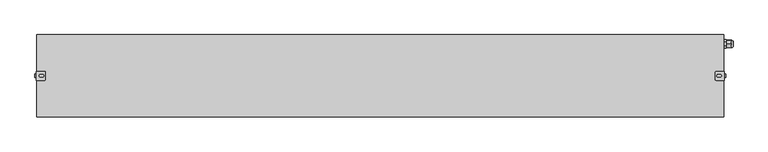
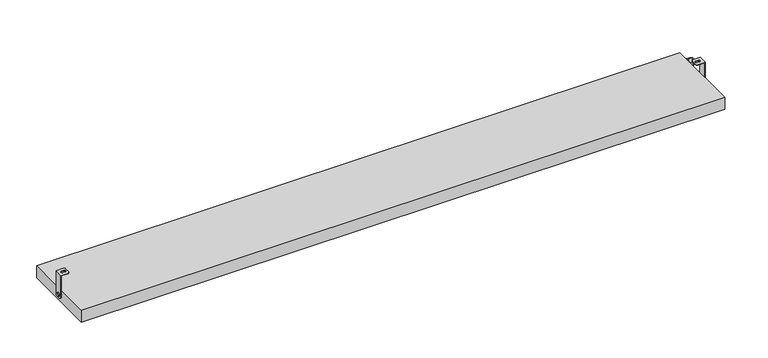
"""IFC4 building model written with IfcOpenShell, lengths in millimetres: light fixture geometry, GENILED_Светильник светодиодный_Titan Advanced : Titan Advanced 1500x180x30 120Вт IP66 Матовое закаленное стекло."""

from ifc_helpers import new_model, si_unit, point, frame, frame_2d, origin, origin_with_axes, place, context, project, spatial, polyline, circle_curve, ellipse_curve, trimmed, segment, composite_curve, outline, extrude, source, transform, mapped, element, save
from ifc_brep_helpers import plane_surface, cylinder_surface, revolved_surface, advanced_brep


def light_fixture_e242d498(model_context):
    return source(origin(), model_context, "Body", "SolidModel", [
        advanced_brep(
        [(-734.0, 10.0, 67.0), (-751.0, 10.0, 67.0), (-751.0, -10.0, 67.0), (-734.0, -10.0, 67.0), (-731.0, -7.0, 67.0), (-731.0, 7.0, 67.0), (-737.0, 2.75, 67.0), (-737.0, -2.75, 67.0), (-742.0, -2.75, 67.0), (-742.0, 2.75, 67.0), (-734.0, -10.0, 66.0), (-750.0, -10.0, 66.0), (-750.0, 10.0, 66.0), (-734.0, 10.0, 66.0), (-731.0, 7.0, 66.0), (-731.0, -7.0, 66.0), (-737.0, 2.75, 66.0), (-742.0, 2.75, 66.0), (-742.0, -2.75, 66.0), (-737.0, -2.75, 66.0), (-751.0, -10.0, 15.0), (-750.0, -10.0, 15.0), (-751.0, 10.0, 15.0), (-751.0, 2.0, 7.0), (-751.0, -2.0, 7.0), (-751.0, 4.0, 15.0), (-751.0, -4.0, 15.0), (-750.0, 10.0, 15.0), (-750.0, -2.0, 7.0), (-750.0, 2.0, 7.0), (-754.0, -4.0, 15.0), (-754.0, 4.0, 15.0)],
        [
            (0, 1),
            (1, 2),
            (2, 3),
            (3, 4, circle_curve(frame((-734.0, -7.0, 67.0), z_axis=(0.0, 0.0, 1.0), x_axis=(-1.0, 0.0, 0.0)), 3.0)),
            (4, 5),
            (5, 0, circle_curve(frame((-734.0, 7.0, 67.0), z_axis=(0.0, 0.0, 1.0), x_axis=(-1.0, 0.0, 0.0)), 3.0)),
            (6, 7, circle_curve(frame((-737.0, 0.0, 67.0), z_axis=(0.0, 0.0, -1.0), x_axis=(-1.0, 0.0, 0.0)), 2.75)),
            (7, 8),
            (8, 9, circle_curve(frame((-742.0, 0.0, 67.0), z_axis=(0.0, 0.0, -1.0), x_axis=(-1.0, 0.0, 0.0)), 2.75)),
            (9, 6),
            (10, 11),
            (11, 12),
            (12, 13),
            (13, 14, circle_curve(frame((-734.0, 7.0, 66.0), z_axis=(0.0, 0.0, -1.0), x_axis=(-1.0, 0.0, 0.0)), 3.0)),
            (14, 15),
            (15, 10, circle_curve(frame((-734.0, -7.0, 66.0), z_axis=(0.0, 0.0, -1.0), x_axis=(-1.0, 0.0, 0.0)), 3.0)),
            (16, 17),
            (17, 18, circle_curve(frame((-742.0, 0.0, 66.0), z_axis=(0.0, 0.0, 1.0), x_axis=(-1.0, 0.0, 0.0)), 2.75)),
            (18, 19),
            (19, 16, circle_curve(frame((-737.0, 0.0, 66.0), z_axis=(0.0, 0.0, 1.0), x_axis=(-1.0, 0.0, 0.0)), 2.75)),
            (5, 14),
            (13, 0),
            (4, 15),
            (3, 10),
            (2, 20),
            (20, 21),
            (21, 11),
            (1, 22),
            (22, 23, circle_curve(frame((-751.0, 2.0, 15.0), z_axis=(-1.0, 0.0, 0.0), x_axis=(0.0, 1.0, 0.0)), 8.0)),
            (23, 24),
            (24, 20, circle_curve(frame((-751.0, -2.0, 15.0), z_axis=(-1.0, 0.0, 0.0), x_axis=(0.0, 1.0, 0.0)), 8.0)),
            (25, 26, circle_curve(frame((-751.0, 0.0, 15.0), z_axis=(1.0, 0.0, 0.0), x_axis=(0.0, 1.0, 0.0)), 4.0)),
            (26, 25, circle_curve(frame((-751.0, 0.0, 15.0), z_axis=(1.0, 0.0, 0.0), x_axis=(0.0, 1.0, 0.0)), 4.0)),
            (12, 27),
            (27, 22),
            (9, 17),
            (16, 6),
            (8, 18),
            (7, 19),
            (21, 28, circle_curve(frame((-750.0, -2.0, 15.0), z_axis=(1.0, 0.0, 0.0), x_axis=(0.0, 1.0, 0.0)), 8.0)),
            (28, 29),
            (29, 27, circle_curve(frame((-750.0, 2.0, 15.0), z_axis=(1.0, 0.0, 0.0), x_axis=(0.0, 1.0, 0.0)), 8.0)),
            (24, 28),
            (23, 29),
            (30, 31, circle_curve(frame((-754.0, 0.0, 15.0), z_axis=(-1.0, 0.0, 0.0), x_axis=(0.0, 1.0, 0.0)), 4.0)),
            (31, 30, circle_curve(frame((-754.0, 0.0, 15.0), z_axis=(-1.0, 0.0, 0.0), x_axis=(0.0, 1.0, 0.0)), 4.0)),
            (31, 25),
            (26, 30),
        ],
        [
            plane_surface(frame((-737.0, 7.0, 67.0), z_axis=(0.0, 0.0, 1.0), x_axis=(0.0, 1.0, 0.0))),
            plane_surface(frame((-737.0, 7.0, 66.0), z_axis=(0.0, 0.0, -1.0), x_axis=(0.0, -1.0, 0.0))),
            cylinder_surface(frame((-734.0, 7.0, 66.0), z_axis=(0.0, 0.0, 1.0), x_axis=(-1.0, 0.0, 0.0)), 3.0),
            plane_surface(frame((-731.0, 7.0, 67.0), z_axis=(1.0, 0.0, 0.0), x_axis=(0.0, 0.0, -1.0))),
            cylinder_surface(frame((-734.0, -7.0, 66.0), z_axis=(0.0, 0.0, 1.0), x_axis=(-1.0, 0.0, 0.0)), 3.0),
            plane_surface(frame((-734.0, -10.0, 67.0), z_axis=(0.0, -1.0, 0.0), x_axis=(0.0, 0.0, -1.0))),
            plane_surface(frame((-751.0, -10.0, 67.0), z_axis=(-1.0, 0.0, 0.0), x_axis=(0.0, 0.0, -1.0))),
            plane_surface(frame((-751.0, 10.0, 67.0), z_axis=(0.0, 1.0, 0.0), x_axis=(0.0, 0.0, -1.0))),
            plane_surface(frame((-737.0, 2.75, 67.0), z_axis=(0.0, -1.0, 0.0), x_axis=(0.0, 0.0, -1.0))),
            revolved_surface(polyline([(-744.75, 0.0, 66.0), (-744.75, 0.0, 67.0)]), (-742.0, 0.0, 15.0), (0.0, 0.0, -1.0)),
            plane_surface(frame((-742.0, -2.75, 67.0), z_axis=(0.0, 1.0, 0.0), x_axis=(0.0, 0.0, -1.0))),
            revolved_surface(polyline([(-739.75, 0.0, 66.0), (-739.75, 0.0, 67.0)]), (-737.0, 0.0, 15.0), (0.0, 0.0, -1.0)),
            plane_surface(frame((-750.0, -10.0, 67.0), z_axis=(1.0, 0.0, 0.0), x_axis=(0.0, 1.0, 0.0))),
            cylinder_surface(frame((-750.0, -2.0, 15.0), z_axis=(-1.0, 0.0, 0.0), x_axis=(0.0, 1.0, 0.0)), 8.0),
            plane_surface(frame((-751.0, -2.0, 7.0), z_axis=(0.0, 0.0, -1.0), x_axis=(1.0, 0.0, 0.0))),
            cylinder_surface(frame((-750.0, 2.0, 15.0), z_axis=(-1.0, 0.0, 0.0), x_axis=(0.0, 1.0, 0.0)), 8.0),
            plane_surface(frame((-754.0, 4.0, 15.0), z_axis=(-1.0, 0.0, 0.0), x_axis=(0.0, 0.0, 1.0))),
            cylinder_surface(frame((-751.0, 0.0, 15.0), z_axis=(-1.0, 0.0, 0.0), x_axis=(0.0, 1.0, 0.0)), 4.0),
        ],
        [
            (0, [[1, 2, 3, 4, 5, 6], [7, 8, 9, 10]]),
            (1, [[11, 12, 13, 14, 15, 16], [17, 18, 19, 20]]),
            (2, [[21, -14, 22, -6]]),
            (3, [[23, -15, -21, -5]]),
            (4, [[24, -16, -23, -4]]),
            (5, [[-3, 25, 26, 27, -11, -24]]),
            (6, [[28, 29, 30, 31, -25, -2], [32, 33]]),
            (7, [[-13, 34, 35, -28, -1, -22]]),
            (8, [[36, -17, 37, -10]]),
            (9, [[38, -18, -36, -9]]),
            (10, [[39, -19, -38, -8]]),
            (11, [[-37, -20, -39, -7]]),
            (12, [[-34, -12, -27, 40, 41, 42]]),
            (13, [[43, -40, -26, -31]]),
            (14, [[44, -41, -43, -30]]),
            (15, [[-35, -42, -44, -29]]),
            (16, [[45, 46]]),
            (17, [[47, -33, 48, -46]]),
            (17, [[-48, -32, -47, -45]]),
        ],
    ),
        advanced_brep(
        [(734.0, 10.0, 67.0), (731.0, 7.0, 67.0), (731.0, -7.0, 67.0), (734.0, -10.0, 67.0), (751.0, -10.0, 67.0), (751.0, 10.0, 67.0), (737.0, 2.75, 67.0), (742.0, 2.75, 67.0), (742.0, -2.75, 67.0), (737.0, -2.75, 67.0), (734.0, -10.0, 66.0), (731.0, -7.0, 66.0), (731.0, 7.0, 66.0), (734.0, 10.0, 66.0), (750.0, 10.0, 66.0), (750.0, -10.0, 66.0), (737.0, 2.75, 66.0), (737.0, -2.75, 66.0), (742.0, -2.75, 66.0), (742.0, 2.75, 66.0), (750.0, -10.0, 15.0), (751.0, -10.0, 15.0), (751.0, -2.0, 7.0), (751.0, 2.0, 7.0), (751.0, 10.0, 15.0), (751.0, 4.0, 15.0), (751.0, -4.0, 15.0), (750.0, 10.0, 15.0), (750.0, 2.0, 7.0), (750.0, -2.0, 7.0), (754.0, -4.0, 15.0), (754.0, 4.0, 15.0)],
        [
            (0, 1, circle_curve(frame((734.0, 7.0, 67.0), z_axis=(0.0, 0.0, 1.0), x_axis=(1.0, 0.0, 0.0)), 3.0)),
            (1, 2),
            (2, 3, circle_curve(frame((734.0, -7.0, 67.0), z_axis=(0.0, 0.0, 1.0), x_axis=(1.0, 0.0, 0.0)), 3.0)),
            (3, 4),
            (4, 5),
            (5, 0),
            (6, 7),
            (7, 8, circle_curve(frame((742.0, 0.0, 67.0), z_axis=(0.0, 0.0, -1.0), x_axis=(1.0, 0.0, 0.0)), 2.75)),
            (8, 9),
            (9, 6, circle_curve(frame((737.0, 0.0, 67.0), z_axis=(0.0, 0.0, -1.0), x_axis=(1.0, 0.0, 0.0)), 2.75)),
            (10, 11, circle_curve(frame((734.0, -7.0, 66.0), z_axis=(0.0, 0.0, -1.0), x_axis=(1.0, 0.0, 0.0)), 3.0)),
            (11, 12),
            (12, 13, circle_curve(frame((734.0, 7.0, 66.0), z_axis=(0.0, 0.0, -1.0), x_axis=(1.0, 0.0, 0.0)), 3.0)),
            (13, 14),
            (14, 15),
            (15, 10),
            (16, 17, circle_curve(frame((737.0, 0.0, 66.0), z_axis=(0.0, 0.0, 1.0), x_axis=(1.0, 0.0, 0.0)), 2.75)),
            (17, 18),
            (18, 19, circle_curve(frame((742.0, 0.0, 66.0), z_axis=(0.0, 0.0, 1.0), x_axis=(1.0, 0.0, 0.0)), 2.75)),
            (19, 16),
            (0, 13),
            (12, 1),
            (11, 2),
            (10, 3),
            (15, 20),
            (20, 21),
            (21, 4),
            (21, 22, circle_curve(frame((751.0, -2.0, 15.0), z_axis=(1.0, 0.0, 0.0), x_axis=(0.0, 1.0, 0.0)), 8.0)),
            (22, 23),
            (23, 24, circle_curve(frame((751.0, 2.0, 15.0), z_axis=(1.0, 0.0, 0.0), x_axis=(0.0, 1.0, 0.0)), 8.0)),
            (24, 5),
            (25, 26, circle_curve(frame((751.0, 0.0, 15.0), z_axis=(-1.0, 0.0, 0.0), x_axis=(0.0, 1.0, 0.0)), 4.0)),
            (26, 25, circle_curve(frame((751.0, 0.0, 15.0), z_axis=(-1.0, 0.0, 0.0), x_axis=(0.0, 1.0, 0.0)), 4.0)),
            (24, 27),
            (27, 14),
            (6, 16),
            (19, 7),
            (18, 8),
            (17, 9),
            (27, 28, circle_curve(frame((750.0, 2.0, 15.0), z_axis=(-1.0, 0.0, 0.0), x_axis=(0.0, 1.0, 0.0)), 8.0)),
            (28, 29),
            (29, 20, circle_curve(frame((750.0, -2.0, 15.0), z_axis=(-1.0, 0.0, 0.0), x_axis=(0.0, 1.0, 0.0)), 8.0)),
            (29, 22),
            (28, 23),
            (30, 31, circle_curve(frame((754.0, 0.0, 15.0), z_axis=(1.0, 0.0, 0.0), x_axis=(0.0, 1.0, 0.0)), 4.0)),
            (31, 30, circle_curve(frame((754.0, 0.0, 15.0), z_axis=(1.0, 0.0, 0.0), x_axis=(0.0, 1.0, 0.0)), 4.0)),
            (30, 26),
            (25, 31),
        ],
        [
            plane_surface(frame((737.0, 7.0, 67.0), z_axis=(0.0, 0.0, 1.0), x_axis=(0.0, 1.0, 0.0))),
            plane_surface(frame((737.0, 7.0, 66.0), z_axis=(0.0, 0.0, -1.0), x_axis=(0.0, -1.0, 0.0))),
            cylinder_surface(frame((734.0, 7.0, 66.0), z_axis=(0.0, 0.0, 1.0), x_axis=(1.0, 0.0, 0.0)), 3.0),
            plane_surface(frame((731.0, 7.0, 67.0), z_axis=(-1.0, 0.0, 0.0), x_axis=(0.0, 0.0, -1.0))),
            cylinder_surface(frame((734.0, -7.0, 66.0), z_axis=(0.0, 0.0, 1.0), x_axis=(1.0, 0.0, 0.0)), 3.0),
            plane_surface(frame((734.0, -10.0, 67.0), z_axis=(0.0, -1.0, 0.0), x_axis=(0.0, 0.0, -1.0))),
            plane_surface(frame((751.0, -10.0, 67.0), z_axis=(1.0, 0.0, 0.0), x_axis=(0.0, 0.0, -1.0))),
            plane_surface(frame((751.0, 10.0, 67.0), z_axis=(0.0, 1.0, 0.0), x_axis=(0.0, 0.0, -1.0))),
            plane_surface(frame((737.0, 2.75, 67.0), z_axis=(0.0, -1.0, 0.0), x_axis=(0.0, 0.0, -1.0))),
            revolved_surface(polyline([(744.75, 0.0, 66.0), (744.75, 0.0, 67.0)]), (742.0, 0.0, 15.0), (0.0, 0.0, -1.0)),
            plane_surface(frame((742.0, -2.75, 67.0), z_axis=(0.0, 1.0, 0.0), x_axis=(0.0, 0.0, -1.0))),
            revolved_surface(polyline([(739.75, 0.0, 66.0), (739.75, 0.0, 67.0)]), (737.0, 0.0, 15.0), (0.0, 0.0, -1.0)),
            plane_surface(frame((750.0, -10.0, 67.0), z_axis=(-1.0, 0.0, 0.0), x_axis=(0.0, 1.0, 0.0))),
            cylinder_surface(frame((750.0, -2.0, 15.0), z_axis=(1.0, 0.0, 0.0), x_axis=(0.0, 1.0, 0.0)), 8.0),
            plane_surface(frame((751.0, -2.0, 7.0), z_axis=(0.0, 0.0, -1.0), x_axis=(-1.0, 0.0, 0.0))),
            cylinder_surface(frame((750.0, 2.0, 15.0), z_axis=(1.0, 0.0, 0.0), x_axis=(0.0, 1.0, 0.0)), 8.0),
            plane_surface(frame((754.0, 4.0, 15.0), z_axis=(1.0, 0.0, 0.0), x_axis=(0.0, 0.0, 1.0))),
            cylinder_surface(frame((751.0, 0.0, 15.0), z_axis=(1.0, 0.0, 0.0), x_axis=(0.0, 1.0, 0.0)), 4.0),
        ],
        [
            (0, [[1, 2, 3, 4, 5, 6], [7, 8, 9, 10]]),
            (1, [[11, 12, 13, 14, 15, 16], [17, 18, 19, 20]]),
            (2, [[-1, 21, -13, 22]]),
            (3, [[-2, -22, -12, 23]]),
            (4, [[-3, -23, -11, 24]]),
            (5, [[-24, -16, 25, 26, 27, -4]]),
            (6, [[-5, -27, 28, 29, 30, 31], [32, 33]]),
            (7, [[-21, -6, -31, 34, 35, -14]]),
            (8, [[-7, 36, -20, 37]]),
            (9, [[-8, -37, -19, 38]]),
            (10, [[-9, -38, -18, 39]]),
            (11, [[-10, -39, -17, -36]]),
            (12, [[40, 41, 42, -25, -15, -35]]),
            (13, [[-28, -26, -42, 43]]),
            (14, [[-29, -43, -41, 44]]),
            (15, [[-30, -44, -40, -34]]),
            (16, [[45, 46]]),
            (17, [[-45, 47, -32, 48]]),
            (17, [[-46, -48, -33, -47]]),
        ],
    ),
        advanced_brep(
        [(770.0120269, 64.15, 15.0), (770.0120269, 75.85, 15.0), (770.0120269, 73.5, 15.0), (770.0120269, 66.5, 15.0), (766.0120269, 62.0, 15.0), (766.0120269, 66.0, 8.0717968), (766.0120269, 74.0, 8.0717968), (766.0120269, 78.0, 15.0), (766.0120269, 74.0, 21.9282032), (766.0120269, 66.0, 21.9282032), (766.0120269, 73.5, 15.0), (766.0120269, 66.5, 15.0), (766.0120269, 62.0, 10.8768944), (766.0120269, 62.4292858, 10.1333496), (766.0120269, 69.5707142, 6.010244), (766.0120269, 70.4292858, 6.010244), (766.0120269, 77.5707142, 10.1333496), (766.0120269, 78.0, 10.8768944), (766.0120269, 78.0, 19.1231056), (766.0120269, 77.5707142, 19.8666504), (766.0120269, 70.4292858, 23.989756), (766.0120269, 69.5707142, 23.989756), (766.0120269, 62.4292858, 19.8666504), (766.0120269, 62.0, 19.1231056), (756.6, 69.5707142, 6.010244), (756.6, 62.4292858, 10.1333496), (756.6, 62.0, 10.8768944), (756.6, 62.0, 19.1231056), (756.6, 62.4292858, 19.8666504), (756.6, 69.5707142, 23.989756), (756.6, 70.4292858, 23.989756), (756.6, 77.5707142, 19.8666504), (756.6, 78.0, 19.1231056), (756.6, 78.0, 10.8768944), (756.6, 77.5707142, 10.1333496), (756.6, 70.4292858, 6.010244), (756.6, 77.25, 15.0), (756.6, 62.75, 15.0), (754.6, 77.25, 15.0), (754.6, 62.75, 15.0), (754.6, 78.989756, 15.4292858), (754.6, 74.8666504, 22.5707142), (754.6, 74.1231056, 23.0), (754.6, 65.8768944, 23.0), (754.6, 65.1333496, 22.5707142), (754.6, 61.010244, 15.4292858), (754.6, 61.0, 15.0), (754.6, 61.010244, 14.5707142), (754.6, 65.1333496, 7.4292858), (754.6, 65.8768944, 7.0), (754.6, 74.1231056, 7.0), (754.6, 74.8666504, 7.4292858), (754.6, 78.989756, 14.5707142), (754.6, 79.0, 15.0), (750.0, 78.989756, 14.5707142), (750.0, 74.8666504, 7.4292858), (750.0, 74.1231056, 7.0), (750.0, 65.8768944, 7.0), (750.0, 65.1333496, 7.4292858), (750.0, 61.010244, 14.5707142), (750.0, 61.0, 15.0), (750.0, 61.010244, 15.4292858), (750.0, 65.1333496, 22.5707142), (750.0, 65.8768944, 23.0), (750.0, 74.1231056, 23.0), (750.0, 74.8666504, 22.5707142), (750.0, 78.989756, 15.4292858), (750.0, 79.0, 15.0)],
        [
            (0, 1, circle_curve(frame((770.0120269, 70.0, 15.0), z_axis=(1.0, 0.0, 0.0), x_axis=(0.0, 1.0, 0.0)), 5.85)),
            (1, 2),
            (2, 3, circle_curve(frame((770.0120269, 70.0, 15.0), z_axis=(-1.0, 0.0, 0.0), x_axis=(0.0, 1.0, 0.0)), 3.5)),
            (3, 0),
            (1, 0, circle_curve(frame((770.0120269, 70.0, 15.0), z_axis=(1.0, 0.0, 0.0), x_axis=(0.0, 1.0, 0.0)), 5.85)),
            (3, 2, circle_curve(frame((770.0120269, 70.0, 15.0), z_axis=(-1.0, 0.0, 0.0), x_axis=(0.0, 1.0, 0.0)), 3.5)),
            (0, 4, circle_curve(frame((765.6269324, 67.5123851, 15.0), z_axis=(0.0, 0.0, -1.0), x_axis=(0.0, 1.0, 0.0)), 5.5258201)),
            (4, 5, circle_curve(frame((766.0120269, 70.0, 15.0), z_axis=(1.0, 0.0, 0.0), x_axis=(0.0, 1.0, 0.0)), 8.0)),
            (5, 6, circle_curve(frame((766.0120269, 70.0, 15.0), z_axis=(1.0, 0.0, 0.0), x_axis=(0.0, 1.0, 0.0)), 8.0)),
            (6, 7, circle_curve(frame((766.0120269, 70.0, 15.0), z_axis=(1.0, 0.0, 0.0), x_axis=(0.0, 1.0, 0.0)), 8.0)),
            (7, 1, circle_curve(frame((765.6269324, 72.4876149, 15.0), z_axis=(0.0, 0.0, -1.0), x_axis=(0.0, -1.0, 0.0)), 5.5258201)),
            (7, 8, circle_curve(frame((766.0120269, 70.0, 15.0), z_axis=(1.0, 0.0, 0.0), x_axis=(0.0, 1.0, 0.0)), 8.0)),
            (8, 9, circle_curve(frame((766.0120269, 70.0, 15.0), z_axis=(1.0, 0.0, 0.0), x_axis=(0.0, 1.0, 0.0)), 8.0)),
            (9, 4, circle_curve(frame((766.0120269, 70.0, 15.0), z_axis=(1.0, 0.0, 0.0), x_axis=(0.0, 1.0, 0.0)), 8.0)),
            (2, 10),
            (10, 11, circle_curve(frame((766.0120269, 70.0, 15.0), z_axis=(-1.0, 0.0, 0.0), x_axis=(0.0, 1.0, 0.0)), 3.5)),
            (11, 3),
            (11, 10, circle_curve(frame((766.0120269, 70.0, 15.0), z_axis=(-1.0, 0.0, 0.0), x_axis=(0.0, 1.0, 0.0)), 3.5)),
            (4, 12),
            (12, 13, circle_curve(frame((766.0120269, 70.0, 15.0), z_axis=(1.0, 0.0, 0.0), x_axis=(0.0, -1.0, 0.0)), 9.0)),
            (13, 5),
            (5, 14),
            (14, 15, circle_curve(frame((766.0120269, 70.0, 15.0), z_axis=(1.0, 0.0, 0.0), x_axis=(0.0, -1.0, 0.0)), 9.0)),
            (15, 6),
            (6, 16),
            (16, 17, circle_curve(frame((766.0120269, 70.0, 15.0), z_axis=(1.0, 0.0, 0.0), x_axis=(0.0, -1.0, 0.0)), 9.0)),
            (17, 7),
            (7, 18),
            (18, 19, circle_curve(frame((766.0120269, 70.0, 15.0), z_axis=(1.0, 0.0, 0.0), x_axis=(0.0, -1.0, 0.0)), 9.0)),
            (19, 8),
            (8, 20),
            (20, 21, circle_curve(frame((766.0120269, 70.0, 15.0), z_axis=(1.0, 0.0, 0.0), x_axis=(0.0, -1.0, 0.0)), 9.0)),
            (21, 9),
            (9, 22),
            (22, 23, circle_curve(frame((766.0120269, 70.0, 15.0), z_axis=(1.0, 0.0, 0.0), x_axis=(0.0, -1.0, 0.0)), 9.0)),
            (23, 4),
            (24, 25),
            (25, 26, circle_curve(frame((756.6, 70.0, 15.0), z_axis=(-1.0, 0.0, 0.0), x_axis=(0.0, -1.0, 0.0)), 9.0)),
            (26, 27),
            (27, 28, circle_curve(frame((756.6, 70.0, 15.0), z_axis=(-1.0, 0.0, 0.0), x_axis=(0.0, -1.0, 0.0)), 9.0)),
            (28, 29),
            (29, 30, circle_curve(frame((756.6, 70.0, 15.0), z_axis=(-1.0, 0.0, 0.0), x_axis=(0.0, -1.0, 0.0)), 9.0)),
            (30, 31),
            (31, 32, circle_curve(frame((756.6, 70.0, 15.0), z_axis=(-1.0, 0.0, 0.0), x_axis=(0.0, -1.0, 0.0)), 9.0)),
            (32, 33),
            (33, 34, circle_curve(frame((756.6, 70.0, 15.0), z_axis=(-1.0, 0.0, 0.0), x_axis=(0.0, -1.0, 0.0)), 9.0)),
            (34, 35),
            (35, 24, circle_curve(frame((756.6, 70.0, 15.0), z_axis=(-1.0, 0.0, 0.0), x_axis=(0.0, -1.0, 0.0)), 9.0)),
            (36, 37, circle_curve(frame((756.6, 70.0, 15.0), z_axis=(1.0, 0.0, 0.0), x_axis=(0.0, -1.0, 0.0)), 7.25)),
            (37, 36, circle_curve(frame((756.6, 70.0, 15.0), z_axis=(1.0, 0.0, 0.0), x_axis=(0.0, -1.0, 0.0)), 7.25)),
            (15, 35),
            (34, 16),
            (17, 33),
            (32, 18),
            (19, 31),
            (30, 20),
            (21, 29),
            (28, 22),
            (23, 27),
            (26, 12),
            (13, 25),
            (24, 14),
            (36, 38),
            (38, 39, circle_curve(frame((754.6, 70.0, 15.0), z_axis=(1.0, 0.0, 0.0), x_axis=(0.0, -1.0, 0.0)), 7.25)),
            (39, 37),
            (39, 38, circle_curve(frame((754.6, 70.0, 15.0), z_axis=(1.0, 0.0, 0.0), x_axis=(0.0, -1.0, 0.0)), 7.25)),
            (40, 41),
            (41, 42, circle_curve(frame((754.6, 70.0, 15.0), z_axis=(1.0, 0.0, 0.0), x_axis=(0.0, -1.0, 0.0)), 9.0)),
            (42, 43),
            (43, 44, circle_curve(frame((754.6, 70.0, 15.0), z_axis=(1.0, 0.0, 0.0), x_axis=(0.0, -1.0, 0.0)), 9.0)),
            (44, 45),
            (45, 46, circle_curve(frame((754.6, 70.0, 15.0), z_axis=(1.0, 0.0, 0.0), x_axis=(0.0, -1.0, 0.0)), 9.0)),
            (46, 47, circle_curve(frame((754.6, 70.0, 15.0), z_axis=(1.0, 0.0, 0.0), x_axis=(0.0, -1.0, 0.0)), 9.0)),
            (47, 48),
            (48, 49, circle_curve(frame((754.6, 70.0, 15.0), z_axis=(1.0, 0.0, 0.0), x_axis=(0.0, -1.0, 0.0)), 9.0)),
            (49, 50),
            (50, 51, circle_curve(frame((754.6, 70.0, 15.0), z_axis=(1.0, 0.0, 0.0), x_axis=(0.0, -1.0, 0.0)), 9.0)),
            (51, 52),
            (52, 53, circle_curve(frame((754.6, 70.0, 15.0), z_axis=(1.0, 0.0, 0.0), x_axis=(0.0, -1.0, 0.0)), 9.0)),
            (53, 40, circle_curve(frame((754.6, 70.0, 15.0), z_axis=(1.0, 0.0, 0.0), x_axis=(0.0, -1.0, 0.0)), 9.0)),
            (54, 55),
            (55, 56, circle_curve(frame((750.0, 70.0, 15.0), z_axis=(-1.0, 0.0, 0.0), x_axis=(0.0, -1.0, 0.0)), 9.0)),
            (56, 57),
            (57, 58, circle_curve(frame((750.0, 70.0, 15.0), z_axis=(-1.0, 0.0, 0.0), x_axis=(0.0, -1.0, 0.0)), 9.0)),
            (58, 59),
            (59, 60, circle_curve(frame((750.0, 70.0, 15.0), z_axis=(-1.0, 0.0, 0.0), x_axis=(0.0, -1.0, 0.0)), 9.0)),
            (60, 61, circle_curve(frame((750.0, 70.0, 15.0), z_axis=(-1.0, 0.0, 0.0), x_axis=(0.0, -1.0, 0.0)), 9.0)),
            (61, 62),
            (62, 63, circle_curve(frame((750.0, 70.0, 15.0), z_axis=(-1.0, 0.0, 0.0), x_axis=(0.0, -1.0, 0.0)), 9.0)),
            (63, 64),
            (64, 65, circle_curve(frame((750.0, 70.0, 15.0), z_axis=(-1.0, 0.0, 0.0), x_axis=(0.0, -1.0, 0.0)), 9.0)),
            (65, 66),
            (66, 67, circle_curve(frame((750.0, 70.0, 15.0), z_axis=(-1.0, 0.0, 0.0), x_axis=(0.0, -1.0, 0.0)), 9.0)),
            (67, 54, circle_curve(frame((750.0, 70.0, 15.0), z_axis=(-1.0, 0.0, 0.0), x_axis=(0.0, -1.0, 0.0)), 9.0)),
            (40, 66),
            (65, 41),
            (42, 64),
            (63, 43),
            (44, 62),
            (61, 45),
            (47, 59),
            (58, 48),
            (49, 57),
            (56, 50),
            (51, 55),
            (54, 52),
            (67, 53),
            (46, 60),
        ],
        [
            plane_surface(frame((770.0120269, 70.0, 15.0), z_axis=(1.0, 0.0, 0.0), x_axis=(0.0, 1.0, 0.0))),
            revolved_surface(trimmed(ellipse_curve(frame((765.6269324, 72.4876149, 15.0), z_axis=(0.0, 0.0, 1.0), x_axis=(0.0, -1.0, 0.0)), 5.5258201, 5.5258201), [point((770.0120269, 75.85, 15.0))], [point((766.0120269, 78.0, 15.0))], True, "CARTESIAN"), (766.0120269, 70.0, 15.0), (-1.0, 0.0, 0.0)),
            revolved_surface(polyline([(766.0120269, 73.5, 15.0), (770.0120269, 73.5, 15.0)]), (766.0120269, 70.0, 15.0), (-1.0, 0.0, 0.0)),
            plane_surface(frame((766.0120269, 70.0, 5.7623957), z_axis=(1.0000000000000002, 0.0, 0.0), x_axis=(0.0, 0.8660254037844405, 0.49999999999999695))),
            plane_surface(frame((756.6, 70.0, 5.7623957), z_axis=(-1.0000000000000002, 0.0, 0.0), x_axis=(0.0, -0.8660254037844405, -0.49999999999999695))),
            plane_surface(frame((766.0120269, 70.0, 5.7623957), z_axis=(0.0, 0.49999999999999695, -0.8660254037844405), x_axis=(-1.0, 0.0, 0.0))),
            plane_surface(frame((766.0120269, 78.0, 10.3811978), z_axis=(0.0, 1.0, 0.0), x_axis=(-1.0, 0.0, 0.0))),
            plane_surface(frame((766.0120269, 78.0, 19.6188022), z_axis=(0.0, 0.5000000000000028, 0.8660254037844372), x_axis=(-1.0, 0.0, 0.0))),
            plane_surface(frame((766.0120269, 70.0, 24.2376043), z_axis=(0.0, -0.49999999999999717, 0.8660254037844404), x_axis=(-1.0, 0.0, 0.0))),
            plane_surface(frame((766.0120269, 62.0, 19.6188022), z_axis=(0.0, -1.0, 0.0), x_axis=(-1.0, 0.0, 0.0))),
            plane_surface(frame((766.0120269, 62.0, 10.3811978), z_axis=(0.0, -0.5000000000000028, -0.8660254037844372), x_axis=(-1.0, 0.0, 0.0))),
            cylinder_surface(frame((754.6, 70.0, 15.0), z_axis=(1.0, 0.0, 0.0), x_axis=(0.0, -1.0, 0.0)), 7.25),
            plane_surface(frame((754.6, 79.2376043, 15.0), z_axis=(1.0, 0.0, 0.0), x_axis=(0.0, -0.5000000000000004, 0.8660254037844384))),
            plane_surface(frame((750.0, 79.2376043, 15.0), z_axis=(-1.0, 0.0, 0.0), x_axis=(0.0, 0.5000000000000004, -0.8660254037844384))),
            plane_surface(frame((754.6, 79.2376043, 15.0), z_axis=(0.0, 0.8660254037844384, 0.5000000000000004), x_axis=(-1.0, 0.0, 0.0))),
            plane_surface(frame((754.6, 74.6188022, 23.0), z_axis=(0.0, 0.0, 1.0), x_axis=(-1.0, 0.0, 0.0))),
            plane_surface(frame((754.6, 65.3811978, 23.0), z_axis=(0.0, -0.866025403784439, 0.49999999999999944), x_axis=(-1.0, 0.0, 0.0))),
            plane_surface(frame((754.6, 60.7623957, 15.0), z_axis=(0.0, -0.8660254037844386, -0.5000000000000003), x_axis=(-1.0, 0.0, 0.0))),
            plane_surface(frame((754.6, 65.3811978, 7.0), z_axis=(0.0, 0.0, -1.0), x_axis=(-1.0, 0.0, 0.0))),
            plane_surface(frame((754.6, 74.6188022, 7.0), z_axis=(0.0, 0.8660254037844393, -0.49999999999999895), x_axis=(-1.0, 0.0, 0.0))),
            cylinder_surface(frame((750.0, 70.0, 15.0), z_axis=(-1.0, 0.0, 0.0), x_axis=(0.0, -1.0, 0.0)), 9.0),
        ],
        [
            (0, [[1, 2, 3, 4]]),
            (0, [[-2, 5, -4, 6]]),
            (1, [[-1, 7, 8, 9, 10, 11]]),
            (1, [[-5, -11, 12, 13, 14, -7]]),
            (2, [[-3, 15, 16, 17]]),
            (2, [[-6, -17, 18, -15]]),
            (3, [[-8, 19, 20, 21]]),
            (3, [[-9, 22, 23, 24]]),
            (3, [[-10, 25, 26, 27]]),
            (3, [[-12, 28, 29, 30]]),
            (3, [[-13, 31, 32, 33]]),
            (3, [[-14, 34, 35, 36]]),
            (3, [[-16, -18]]),
            (4, [[37, 38, 39, 40, 41, 42, 43, 44, 45, 46, 47, 48], [49, 50]]),
            (5, [[-25, -24, 51, -47, 52]]),
            (6, [[-27, 53, -45, 54, -28]]),
            (7, [[-30, 55, -43, 56, -31]]),
            (8, [[-34, -33, 57, -41, 58]]),
            (9, [[-36, 59, -39, 60, -19]]),
            (10, [[-21, 61, -37, 62, -22]]),
            (11, [[63, 64, 65, -49]]),
            (11, [[-63, -50, -65, 66]]),
            (12, [[67, 68, 69, 70, 71, 72, 73, 74, 75, 76, 77, 78, 79, 80], [-64, -66]]),
            (13, [[81, 82, 83, 84, 85, 86, 87, 88, 89, 90, 91, 92, 93, 94]]),
            (14, [[-67, 95, -92, 96]]),
            (15, [[-69, 97, -90, 98]]),
            (16, [[-71, 99, -88, 100]]),
            (17, [[-74, 101, -85, 102]]),
            (18, [[-76, 103, -83, 104]]),
            (19, [[-78, 105, -81, 106]]),
            (20, [[-20, -60, -38, -61]]),
            (20, [[-23, -62, -48, -51]]),
            (20, [[-26, -52, -46, -53]]),
            (20, [[-75, -102, -84, -103]]),
            (20, [[-77, -104, -82, -105]]),
            (20, [[107, -79, -106, -94]]),
            (20, [[108, -86, -101, -73]]),
            (20, [[-29, -54, -44, -55]]),
            (20, [[-32, -56, -42, -57]]),
            (20, [[-35, -58, -40, -59]]),
            (20, [[-68, -96, -91, -97]]),
            (20, [[-70, -98, -89, -99]]),
            (20, [[-107, -93, -95, -80]]),
            (20, [[-108, -72, -100, -87]]),
        ],
    ),
        advanced_brep(
        [(750.0, 90.0, 30.0), (-750.0, 90.0, 30.0), (-750.0, -90.0, 30.0), (750.0, -90.0, 30.0), (750.0, 90.0, 0.0), (750.0, -90.0, 0.0), (-750.0, -90.0, 0.0), (-750.0, 90.0, 0.0), (720.0, 75.0, 0.0), (-720.0, 75.0, 0.0), (-735.0, 60.0, 0.0), (-735.0, -60.0, 0.0), (-720.0, -75.0, 0.0), (720.0, -75.0, 0.0), (735.0, -60.0, 0.0), (735.0, 60.0, 0.0), (735.0, 60.0, 5.0), (720.0, 75.0, 5.0), (735.0, -60.0, 5.0), (720.0, -75.0, 5.0), (-720.0, -75.0, 5.0), (-735.0, -60.0, 5.0), (-735.0, 60.0, 5.0), (-720.0, 75.0, 5.0)],
        [
            (0, 1),
            (1, 2),
            (2, 3),
            (3, 0),
            (4, 5),
            (5, 6),
            (6, 7),
            (7, 4),
            (8, 9),
            (9, 10, circle_curve(frame((-720.0, 60.0, 0.0), z_axis=(0.0, 0.0, 1.0), x_axis=(1.0, 0.0, 0.0)), 15.0)),
            (10, 11),
            (11, 12, circle_curve(frame((-720.0, -60.0, 0.0), z_axis=(0.0, 0.0, 1.0), x_axis=(1.0, 0.0, 0.0)), 15.0)),
            (12, 13),
            (13, 14, circle_curve(frame((720.0, -60.0, 0.0), z_axis=(0.0, 0.0, 1.0), x_axis=(1.0, 0.0, 0.0)), 15.0)),
            (14, 15),
            (15, 8, circle_curve(frame((720.0, 60.0, 0.0), z_axis=(0.0, 0.0, 1.0), x_axis=(1.0, 0.0, 0.0)), 15.0)),
            (0, 4),
            (7, 1),
            (6, 2),
            (5, 3),
            (15, 16),
            (16, 17, circle_curve(frame((720.0, 60.0, 5.0), z_axis=(0.0, 0.0, 1.0), x_axis=(1.0, 0.0, 0.0)), 15.0)),
            (17, 8),
            (14, 18),
            (18, 16),
            (13, 19),
            (19, 18, circle_curve(frame((720.0, -60.0, 5.0), z_axis=(0.0, 0.0, 1.0), x_axis=(1.0, 0.0, 0.0)), 15.0)),
            (12, 20),
            (20, 19),
            (11, 21),
            (21, 20, circle_curve(frame((-720.0, -60.0, 5.0), z_axis=(0.0, 0.0, 1.0), x_axis=(1.0, 0.0, 0.0)), 15.0)),
            (10, 22),
            (22, 21),
            (9, 23),
            (23, 22, circle_curve(frame((-720.0, 60.0, 5.0), z_axis=(0.0, 0.0, 1.0), x_axis=(1.0, 0.0, 0.0)), 15.0)),
            (17, 23),
        ],
        [
            plane_surface(frame((-750.0, 90.0, 30.0), z_axis=(0.0, 0.0, 1.0), x_axis=(-1.0, 0.0, 0.0))),
            plane_surface(frame((-750.0, 90.0, 0.0), z_axis=(0.0, 0.0, -1.0), x_axis=(1.0, 0.0, 0.0))),
            plane_surface(frame((750.0, 90.0, 30.0), z_axis=(0.0, 1.0, 0.0), x_axis=(0.0, 0.0, -1.0))),
            plane_surface(frame((-750.0, 90.0, 30.0), z_axis=(-1.0, 0.0, 0.0), x_axis=(0.0, 0.0, -1.0))),
            plane_surface(frame((-750.0, -90.0, 30.0), z_axis=(0.0, -1.0, 0.0), x_axis=(0.0, 0.0, -1.0))),
            plane_surface(frame((750.0, -90.0, 30.0), z_axis=(1.0, 0.0, 0.0), x_axis=(0.0, 0.0, -1.0))),
            revolved_surface(polyline([(735.0, 60.0, 0.0), (735.0, 60.0, 5.0)]), (720.0, 60.0, 0.0), (0.0, 0.0, -1.0)),
            plane_surface(frame((735.0, 60.0, 30.0), z_axis=(-1.0, 0.0, 0.0), x_axis=(0.0, 0.0, -1.0))),
            revolved_surface(polyline([(735.0, -60.0, 0.0), (735.0, -60.0, 5.0)]), (720.0, -60.0, 0.0), (0.0, 0.0, -1.0)),
            plane_surface(frame((720.0, -75.0, 30.0), z_axis=(0.0, 1.0, 0.0), x_axis=(0.0, 0.0, -1.0))),
            revolved_surface(polyline([(-705.0, -60.0, 0.0), (-705.0, -60.0, 5.0)]), (-720.0, -60.0, 0.0), (0.0, 0.0, -1.0)),
            plane_surface(frame((-735.0, -60.0, 30.0), z_axis=(1.0, 0.0, 0.0), x_axis=(0.0, 0.0, -1.0))),
            revolved_surface(polyline([(-705.0, 60.0, 0.0), (-705.0, 60.0, 5.0)]), (-720.0, 60.0, 0.0), (0.0, 0.0, -1.0)),
            plane_surface(frame((-720.0, 75.0, 30.0), z_axis=(0.0, -1.0, 0.0), x_axis=(0.0, 0.0, -1.0))),
            plane_surface(frame((-720.0, 75.0, 5.0), z_axis=(0.0, 0.0, -1.0), x_axis=(1.0, 0.0, 0.0))),
        ],
        [
            (0, [[1, 2, 3, 4]]),
            (1, [[5, 6, 7, 8], [9, 10, 11, 12, 13, 14, 15, 16]]),
            (2, [[-1, 17, -8, 18]]),
            (3, [[-2, -18, -7, 19]]),
            (4, [[-3, -19, -6, 20]]),
            (5, [[-4, -20, -5, -17]]),
            (6, [[-16, 21, 22, 23]]),
            (7, [[-15, 24, 25, -21]]),
            (8, [[-14, 26, 27, -24]]),
            (9, [[-13, 28, 29, -26]]),
            (10, [[-12, 30, 31, -28]]),
            (11, [[-11, 32, 33, -30]]),
            (12, [[-10, 34, 35, -32]]),
            (13, [[-9, -23, 36, -34]]),
            (14, [[-22, -25, -27, -29, -31, -33, -35, -36]]),
        ],
    ),
        extrude(outline(composite_curve([segment(trimmed(circle_curve(frame_2d((720.0, 60.0)), 15.0), [point((720.0, 75.0))], [point((735.0, 60.0))], False, "CARTESIAN"), True, "CONTINUOUS"), segment(polyline([(735.0, 60.0), (735.0, -60.0)]), True, "CONTINUOUS"), segment(trimmed(circle_curve(frame_2d((720.0, -60.0)), 15.0), [point((735.0, -60.0))], [point((720.0, -75.0))], False, "CARTESIAN"), True, "CONTINUOUS"), segment(polyline([(720.0, -75.0), (-720.0, -75.0)]), True, "CONTINUOUS"), segment(trimmed(circle_curve(frame_2d((-720.0, -60.0)), 15.0), [point((-720.0, -75.0))], [point((-735.0, -60.0))], False, "CARTESIAN"), True, "CONTINUOUS"), segment(polyline([(-735.0, -60.0), (-735.0, 60.0)]), True, "CONTINUOUS"), segment(trimmed(circle_curve(frame_2d((-720.0, 60.0)), 15.0), [point((-735.0, 60.0))], [point((-720.0, 75.0))], False, "CARTESIAN"), True, "CONTINUOUS"), segment(polyline([(-720.0, 75.0), (720.0, 75.0)]), True, "CONTINUOUS")], self_intersect=False)), origin_with_axes(), (0.0, 0.0, 1.0), 5.0),
    ])


if __name__ == "__main__":
    model = new_model("IFC4")
    model_context = context("Model", 3, world=origin())
    ifc_project = project(units=[si_unit("LENGTHUNIT", "METRE", prefix="MILLI")], contexts=[model_context])
    site = spatial("IfcSite", under=ifc_project)
    building = spatial("IfcBuilding", under=site)
    placement = place(None, origin())
    light_fixture_shape = light_fixture_e242d498(model_context)
    element("IfcLightFixture", 1, ObjectType="GENILED_Светильник светодиодный_Titan Advanced : Titan Advanced 1500x180x30 120Вт IP66 Матовое закаленное стекло", at=placement, inside=building, context=model_context, shape_type="MappedRepresentation", body=[
        mapped(light_fixture_shape, transform((0.0, 0.0, 0.0), x_axis=(1.0, 0.0, 0.0), y_axis=(0.0, 1.0, 0.0), z_axis=(0.0, 0.0, 1.0))),
    ])
    save(model, "model.ifc")
